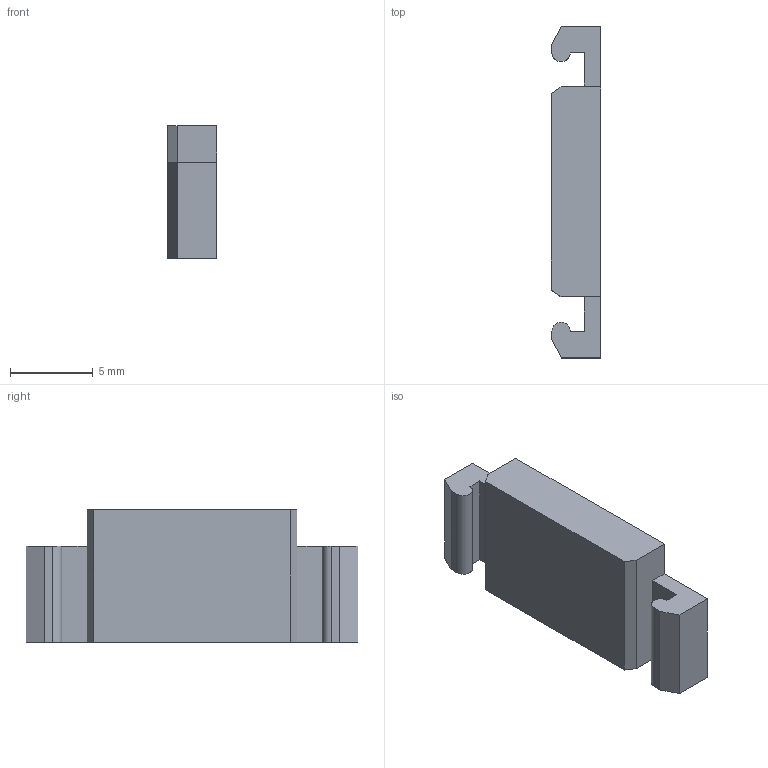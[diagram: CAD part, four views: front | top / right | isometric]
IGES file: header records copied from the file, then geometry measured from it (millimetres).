
Global section: file name: CableChain_Bar v1; native system: unknown; preprocessor: unknown; author: unknown; organization: unknown; date: 20241212.222136; units: millimetre
Bounding box: 3 x 20 x 8 mm (x, y, z)
Volume: 382.3 mm3; surface area: 482.1 mm2
Topology: 1 solids, 1 shells, 22 faces, 60 edges, 40 vertices
Faces by surface type: bspline 22
